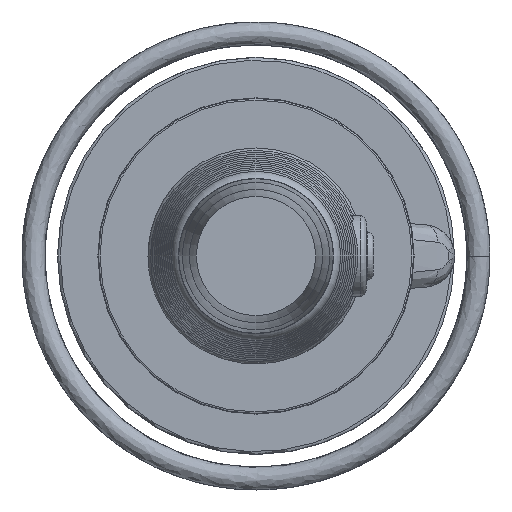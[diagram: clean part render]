
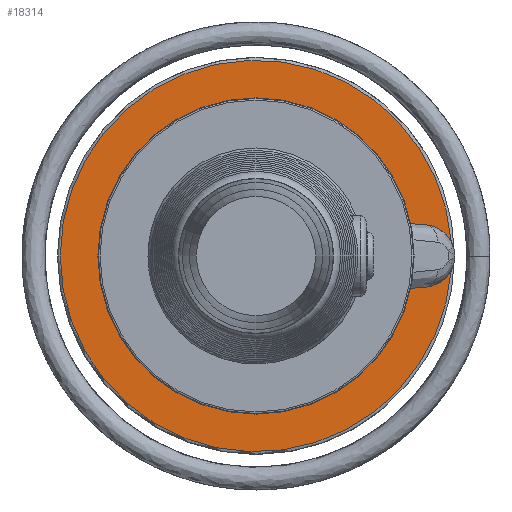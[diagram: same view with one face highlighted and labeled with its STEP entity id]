
A CAD part, left-side view. The second image highlights one B-rep face of the part: STEP entity #18314.
In plain terms, the highlighted planar face has unit normal (-1, 0, 0).
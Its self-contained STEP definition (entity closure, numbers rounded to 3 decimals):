
#879=PLANE('',#19632);
#1915=LINE('',#42441,#2956);
#1916=LINE('',#42448,#2957);
#2956=VECTOR('',#23262,10.);
#2957=VECTOR('',#23269,10.);
#4099=FACE_OUTER_BOUND('',#5165,.T.);
#5165=EDGE_LOOP('',(#16051,#16052,#16053,#16054,#16055,#16056,#16057,#16058,
#16059));
#6038=CIRCLE('',#18384,138.);
#6642=CIRCLE('',#19633,22.);
#6643=CIRCLE('',#19634,138.);
#6644=CIRCLE('',#19635,22.);
#6645=CIRCLE('',#19636,10.);
#6646=CIRCLE('',#19637,91.5);
#6647=CIRCLE('',#19638,10.);
#6700=VERTEX_POINT('',#23446);
#6703=VERTEX_POINT('',#23452);
#8344=VERTEX_POINT('',#42434);
#8345=VERTEX_POINT('',#42435);
#8346=VERTEX_POINT('',#42438);
#8347=VERTEX_POINT('',#42440);
#8348=VERTEX_POINT('',#42442);
#8349=VERTEX_POINT('',#42444);
#8350=VERTEX_POINT('',#42446);
#8412=EDGE_CURVE('',#6703,#6700,#6038,.T.);
#10925=EDGE_CURVE('',#8344,#8345,#6642,.T.);
#10926=EDGE_CURVE('',#6700,#8345,#6643,.T.);
#10927=EDGE_CURVE('',#6703,#8346,#6644,.T.);
#10928=EDGE_CURVE('',#8346,#8347,#1915,.T.);
#10929=EDGE_CURVE('',#8347,#8348,#6645,.T.);
#10930=EDGE_CURVE('',#8348,#8349,#6646,.T.);
#10931=EDGE_CURVE('',#8349,#8350,#6647,.T.);
#10932=EDGE_CURVE('',#8350,#8344,#1916,.T.);
#16051=ORIENTED_EDGE('',*,*,#10925,.T.);
#16052=ORIENTED_EDGE('',*,*,#10926,.F.);
#16053=ORIENTED_EDGE('',*,*,#8412,.F.);
#16054=ORIENTED_EDGE('',*,*,#10927,.T.);
#16055=ORIENTED_EDGE('',*,*,#10928,.T.);
#16056=ORIENTED_EDGE('',*,*,#10929,.T.);
#16057=ORIENTED_EDGE('',*,*,#10930,.T.);
#16058=ORIENTED_EDGE('',*,*,#10931,.T.);
#16059=ORIENTED_EDGE('',*,*,#10932,.T.);
#18314=ADVANCED_FACE('',(#4099),#879,.T.);
#18384=AXIS2_PLACEMENT_3D('',#23463,#19730,#19731);
#19632=AXIS2_PLACEMENT_3D('',#42433,#23254,#23255);
#19633=AXIS2_PLACEMENT_3D('',#42436,#23256,#23257);
#19634=AXIS2_PLACEMENT_3D('',#42437,#23258,#23259);
#19635=AXIS2_PLACEMENT_3D('',#42439,#23260,#23261);
#19636=AXIS2_PLACEMENT_3D('',#42443,#23263,#23264);
#19637=AXIS2_PLACEMENT_3D('',#42445,#23265,#23266);
#19638=AXIS2_PLACEMENT_3D('',#42447,#23267,#23268);
#19730=DIRECTION('center_axis',(1.,0.,0.));
#19731=DIRECTION('ref_axis',(0.,0.,
1.));
#23254=DIRECTION('center_axis',(-1.,0.,0.));
#23255=DIRECTION('ref_axis',(0.,1.,0.));
#23256=DIRECTION('center_axis',(1.,0.,0.));
#23257=DIRECTION('ref_axis',(0.,0.087,0.996));
#23258=DIRECTION('center_axis',(1.,0.,0.));
#23259=DIRECTION('ref_axis',(0.,0.,
1.));
#23260=DIRECTION('center_axis',(1.,0.,0.));
#23261=DIRECTION('ref_axis',(0.,0.087,0.996));
#23262=DIRECTION('',(0.,0.996,-0.087));
#23263=DIRECTION('center_axis',(-1.,0.,0.));
#23264=DIRECTION('ref_axis',(0.,0.087,0.996));
#23265=DIRECTION('center_axis',(1.,0.,0.));
#23266=DIRECTION('ref_axis',(0.,0.,
1.));
#23267=DIRECTION('center_axis',(-1.,0.,0.));
#23268=DIRECTION('ref_axis',(0.,0.934,-0.358));
#23269=DIRECTION('',(0.,-0.996,-0.087));
#23446=CARTESIAN_POINT('',(-17.009,137.996,0.));
#23452=CARTESIAN_POINT('',(-17.009,-137.649,-9.905));
#23463=CARTESIAN_POINT('Origin',(-17.009,-0.004,
0.));
#42433=CARTESIAN_POINT('Origin',(-17.009,-0.004,
114.75));
#42434=CARTESIAN_POINT('',(-17.009,-119.922,21.916));
#42435=CARTESIAN_POINT('',(-17.009,-137.649,9.905));
#42436=CARTESIAN_POINT('Origin',(-17.009,-118.004,0.));
#42437=CARTESIAN_POINT('Origin',(-17.009,-0.004,
0.));
#42438=CARTESIAN_POINT('',(-17.009,-119.922,-21.916));
#42439=CARTESIAN_POINT('Origin',(-17.009,-118.004,0.));
#42440=CARTESIAN_POINT('',(-17.009,-89.231,-24.601));
#42441=CARTESIAN_POINT('',(-17.009,-66.352,-26.603));
#42442=CARTESIAN_POINT('',(-17.009,-88.088,-24.768));
#42443=CARTESIAN_POINT('Origin',(-17.009,-90.102,-34.563));
#42444=CARTESIAN_POINT('',(-17.009,-88.088,24.768));
#42445=CARTESIAN_POINT('Origin',(-17.009,-0.004,
0.));
#42446=CARTESIAN_POINT('',(-17.009,-89.231,24.601));
#42447=CARTESIAN_POINT('Origin',(-17.009,-90.102,34.563));
#42448=CARTESIAN_POINT('',(-17.009,-41.043,28.817));
